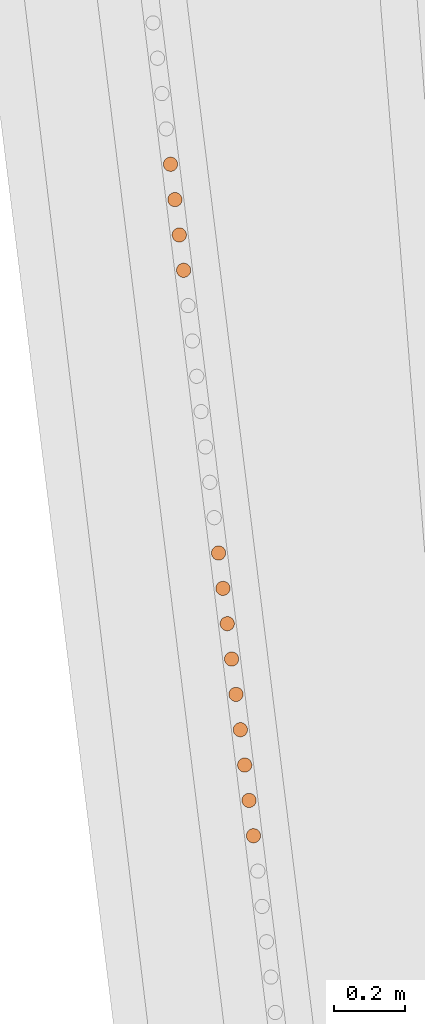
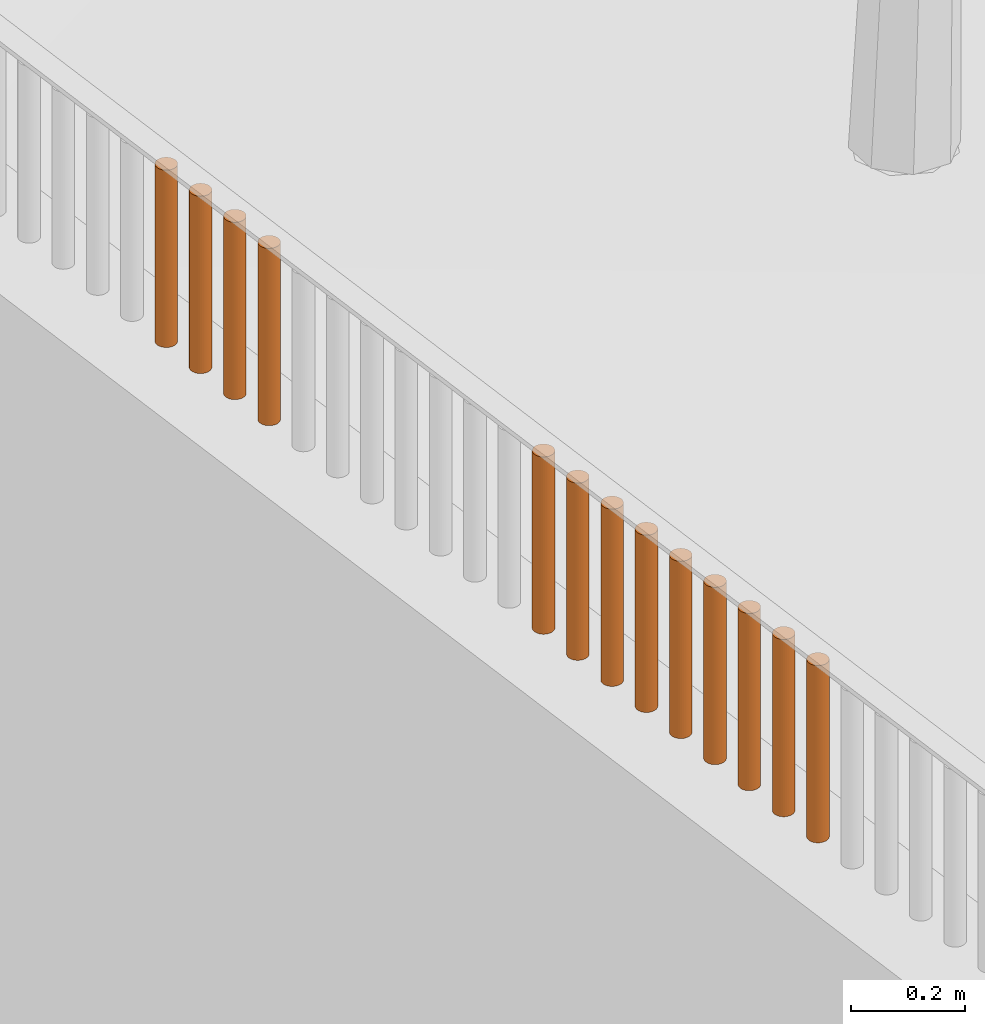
# One storey, part 121 of 1809: 13 proxies, 1 element without a shape of its own.
"""IFC2X3 building model written with IfcOpenShell, lengths in millimetres."""

from ifc_helpers import new_model, entity, si_unit, converted_unit, derived_unit, money_unit, direction, frame, origin_with_axes, place, context, subcontext, project, spatial, faceted_brep, source, transform, mapped, material, type_object, element, aggregate, save


model = new_model("IFC2X3")

# Units and contexts
model_context = context("Model", 3, precision=0.01, world=origin_with_axes(), true_north=direction((0.0, 1.0)))
body_context = subcontext(model_context, "Body", "Model", "MODEL_VIEW")
ifc_project = project(units=[si_unit("LENGTHUNIT", "METRE", prefix="MILLI"), si_unit("AREAUNIT", "SQUARE_METRE"), si_unit("VOLUMEUNIT", "CUBIC_METRE"), converted_unit("PLANEANGLEUNIT", "DEGREE", entity("IfcPlaneAngleMeasure", 0.0174532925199), si_unit("PLANEANGLEUNIT", "RADIAN"), dimensions=[0, 0, 0, 0, 0, 0, 0]), si_unit("SOLIDANGLEUNIT", "STERADIAN"), money_unit("EUR"), converted_unit("TIMEUNIT", "Year", entity("IfcTimeMeasure", 31556926.0), si_unit("TIMEUNIT", "SECOND"), dimensions=[0, 0, 1, 0, 0, 0, 0]), si_unit("MASSUNIT", "GRAM", prefix="KILO"), si_unit("THERMODYNAMICTEMPERATUREUNIT", "DEGREE_CELSIUS"), si_unit("LUMINOUSINTENSITYUNIT", "LUMEN"), si_unit("ENERGYUNIT", "JOULE", prefix="MEGA"), derived_unit("THERMALCONDUCTANCEUNIT", [(si_unit("POWERUNIT", "WATT"), 1), (si_unit("LENGTHUNIT", "METRE"), -1), (si_unit("THERMODYNAMICTEMPERATUREUNIT", "KELVIN"), -1)]), derived_unit("SPECIFICHEATCAPACITYUNIT", [(si_unit("ENERGYUNIT", "JOULE"), 1), (si_unit("MASSUNIT", "GRAM", prefix="KILO"), -1), (si_unit("THERMODYNAMICTEMPERATUREUNIT", "KELVIN"), -1)]), derived_unit("MASSDENSITYUNIT", [(si_unit("MASSUNIT", "GRAM", prefix="KILO"), 1), (si_unit("VOLUMEUNIT", "CUBIC_METRE"), -1)])], contexts=[model_context])

# Site, building, storey
site_placement = place(None, origin_with_axes())
site = spatial("IfcSite", under=ifc_project, at=site_placement, Name="Politse- ja Piirivalveameti ning Päästeameti ühishoone", CompositionType="ELEMENT")
building_placement = place(site_placement, origin_with_axes())
building = spatial("IfcBuilding", under=site, at=building_placement, Name="Politse- ja Piirivalveameti ning Päästeameti ühishoone", CompositionType="ELEMENT")
storey_placement = place(building_placement, origin_with_axes())
storey = spatial("IfcBuildingStorey", under=building, at=storey_placement, Name="Esimene korrus", CompositionType="ELEMENT", Elevation=0.0)

# Proxies
building_element_proxy_type_1 = type_object("IfcBuildingElementProxyType", Name="Railing Type", PredefinedType="NOTDEFINED")
proxy_1_placement = place(storey_placement, frame((-18956.5522504, -53688.4757966, 2100.0), z_axis=(0.0, 0.0, 1.0), x_axis=(1.0, 0.0, 0.0)))
proxy_1 = element("IfcBuildingElementProxy", 1, at=proxy_1_placement, inside=storey, type_object=building_element_proxy_type_1, Name="PIIRDEAED")
ifc_material = material(Name="ET-06_Teras - Konstruktsioon")
building_element_proxy_type_2 = type_object("IfcBuildingElementProxyType", Name="IfcBuildingElementProxy", PredefinedType="NOTDEFINED")
shared_shape_1 = source(origin_with_axes(), body_context, "Body", "Brep", [
    faceted_brep([(0.0, -20.0, 0.0), (3.47296355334, -19.6961550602, 0.0), (3.47296355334, -19.6961550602, 380.000012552), (0.0, -20.0, 380.000012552), (-3.47296355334, -19.6961550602, 0.0), (-6.84040286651, -18.7938524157, 0.0), (-10.0, -17.3205080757, 0.0), (-12.8557521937, -15.3208888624, 0.0), (-15.3208888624, -12.8557521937, 0.0), (-17.3205080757, -10.0, 0.0), (-18.7938524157, -6.84040286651, 0.0), (-19.6961550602, -3.47296355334, 0.0), (-20.0, 0.0, 0.0), (-19.6961550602, 3.47296355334, 0.0), (-18.7938524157, 6.84040286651, 0.0), (-17.3205080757, 10.0, 0.0), (-15.3208888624, 12.8557521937, 0.0), (-12.8557521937, 15.3208888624, 0.0), (-10.0, 17.3205080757, 0.0), (-6.84040286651, 18.7938524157, 0.0), (-3.47296355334, 19.6961550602, 0.0), (0.0, 20.0, 0.0), (3.47296355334, 19.6961550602, 0.0), (6.84040286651, 18.7938524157, 0.0), (10.0, 17.3205080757, 0.0), (12.8557521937, 15.3208888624, 0.0), (15.3208888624, 12.8557521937, 0.0), (17.3205080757, 10.0, 0.0), (18.7938524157, 6.84040286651, 0.0), (19.6961550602, 3.47296355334, 0.0), (20.0, 0.0, 0.0), (19.6961550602, -3.47296355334, 0.0), (18.7938524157, -6.84040286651, 0.0), (17.3205080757, -10.0, 0.0), (15.3208888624, -12.8557521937, 0.0), (12.8557521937, -15.3208888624, 0.0), (10.0, -17.3205080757, 0.0), (6.84040286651, -18.7938524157, 0.0), (6.84040286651, -18.7938524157, 380.000012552), (10.0, -17.3205080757, 380.000012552), (12.8557521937, -15.3208888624, 380.000012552), (15.3208888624, -12.8557521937, 380.000012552), (17.3205080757, -10.0, 380.000012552), (18.7938524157, -6.84040286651, 380.000012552), (19.6961550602, -3.47296355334, 380.000012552), (20.0, 0.0, 380.000012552), (19.6961550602, 3.47296355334, 380.000012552), (18.7938524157, 6.84040286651, 380.000012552), (17.3205080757, 10.0, 380.000012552), (15.3208888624, 12.8557521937, 380.000012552), (12.8557521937, 15.3208888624, 380.000012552), (10.0, 17.3205080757, 380.000012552), (6.84040286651, 18.7938524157, 380.000012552), (3.47296355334, 19.6961550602, 380.000012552), (0.0, 20.0, 380.000012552), (-3.47296355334, 19.6961550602, 380.000012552), (-6.84040286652, 18.7938524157, 380.000012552), (-10.0, 17.3205080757, 380.000012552), (-12.8557521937, 15.3208888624, 380.000012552), (-15.3208888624, 12.8557521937, 380.000012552), (-17.3205080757, 10.0, 380.000012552), (-18.7938524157, 6.84040286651, 380.000012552), (-19.6961550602, 3.47296355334, 380.000012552), (-20.0, 0.0, 380.000012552), (-19.6961550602, -3.47296355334, 380.000012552), (-18.7938524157, -6.84040286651, 380.000012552), (-17.3205080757, -10.0, 380.000012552), (-15.3208888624, -12.8557521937, 380.000012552), (-12.8557521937, -15.3208888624, 380.000012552), (-10.0, -17.3205080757, 380.000012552), (-6.84040286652, -18.7938524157, 380.000012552), (-3.47296355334, -19.6961550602, 380.000012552)], [[[0, 1, 2, 3]], [[0, 4, 5, 6, 7, 8, 9, 10, 11, 12, 13, 14, 15, 16, 17, 18, 19, 20, 21, 22, 23, 24, 25, 26, 27, 28, 29, 30, 31, 32, 33, 34, 35, 36, 37, 1]], [[1, 37, 38, 2]], [[3, 2, 38, 39, 40, 41, 42, 43, 44, 45, 46, 47, 48, 49, 50, 51, 52, 53, 54, 55, 56, 57, 58, 59, 60, 61, 62, 63, 64, 65, 66, 67, 68, 69, 70, 71]], [[4, 0, 3, 71]], [[5, 4, 71, 70]], [[6, 5, 70, 69]], [[7, 6, 69, 68]], [[8, 7, 68, 67]], [[9, 8, 67, 66]], [[10, 9, 66, 65]], [[11, 10, 65, 64]], [[12, 11, 64, 63]], [[13, 12, 63, 62]], [[14, 13, 62, 61]], [[15, 14, 61, 60]], [[16, 15, 60, 59]], [[17, 16, 59, 58]], [[18, 17, 58, 57]], [[19, 18, 57, 56]], [[20, 19, 56, 55]], [[21, 20, 55, 54]], [[22, 21, 54, 53]], [[23, 22, 53, 52]], [[24, 23, 52, 51]], [[25, 24, 51, 50]], [[26, 25, 50, 49]], [[27, 26, 49, 48]], [[28, 27, 48, 47]], [[29, 28, 47, 46]], [[30, 29, 46, 45]], [[31, 30, 45, 44]], [[32, 31, 44, 43]], [[33, 32, 43, 42]], [[34, 33, 42, 41]], [[35, 34, 41, 40]], [[36, 35, 40, 39]], [[37, 36, 39, 38]]]),
])
proxy_2_placement = place(proxy_1_placement, frame((-2873.25185801, 22443.6954787, -1.25517001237e-05), z_axis=(0.0, 0.0, 1.0), x_axis=(1.0, 0.0, 0.0)))
proxy_2 = element("IfcBuildingElementProxy", 2, at=proxy_2_placement, type_object=building_element_proxy_type_2, material=ifc_material, Name="BALUSTER - 001", context=body_context, shape_type="MappedRepresentation", body=[
    mapped(shared_shape_1, transform((0.0, 0.0, 0.0), x_axis=(0.992468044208, 0.122503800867, 0.0), y_axis=(-0.122503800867, 0.992468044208, 0.0), z_axis=(0.0, 0.0, 1.0))),
])
proxy_3_placement = place(proxy_1_placement, frame((-2897.74726783, 22642.1457415, -1.25517001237e-05), z_axis=(0.0, 0.0, 1.0), x_axis=(1.0, 0.0, 0.0)))
proxy_3 = element("IfcBuildingElementProxy", 3, at=proxy_3_placement, type_object=building_element_proxy_type_2, material=ifc_material, Name="BALUSTER - 001", context=body_context, shape_type="MappedRepresentation", body=[
    mapped(shared_shape_1, transform((0.0, 0.0, 0.0), x_axis=(0.992468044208, 0.122503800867, 0.0), y_axis=(-0.122503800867, 0.992468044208, 0.0), z_axis=(0.0, 0.0, 1.0))),
])
proxy_4_placement = place(proxy_1_placement, frame((-2934.49038257, 22939.8211358, -1.25517001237e-05), z_axis=(0.0, 0.0, 1.0), x_axis=(1.0, 0.0, 0.0)))
proxy_4 = element("IfcBuildingElementProxy", 4, at=proxy_4_placement, type_object=building_element_proxy_type_2, material=ifc_material, Name="BALUSTER - 001", context=body_context, shape_type="MappedRepresentation", body=[
    mapped(shared_shape_1, transform((0.0, 0.0, 0.0), x_axis=(0.992468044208, 0.122503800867, 0.0), y_axis=(-0.122503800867, 0.992468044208, 0.0), z_axis=(0.0, 0.0, 1.0))),
])
proxy_5_placement = place(proxy_1_placement, frame((-3069.21513662, 24031.2975815, -1.25517001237e-05), z_axis=(0.0, 0.0, 1.0), x_axis=(1.0, 0.0, 0.0)))
proxy_5 = element("IfcBuildingElementProxy", 5, at=proxy_5_placement, type_object=building_element_proxy_type_2, material=ifc_material, Name="BALUSTER - 001", context=body_context, shape_type="MappedRepresentation", body=[
    mapped(shared_shape_1, transform((0.0, 0.0, 0.0), x_axis=(0.992468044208, 0.122503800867, 0.0), y_axis=(-0.122503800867, 0.992468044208, 0.0), z_axis=(0.0, 0.0, 1.0))),
])
proxy_6_placement = place(proxy_1_placement, frame((-3093.71054644, 24229.7478444, -1.25517001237e-05), z_axis=(0.0, 0.0, 1.0), x_axis=(1.0, 0.0, 0.0)))
proxy_6 = element("IfcBuildingElementProxy", 6, at=proxy_6_placement, type_object=building_element_proxy_type_2, material=ifc_material, Name="BALUSTER - 001", context=body_context, shape_type="MappedRepresentation", body=[
    mapped(shared_shape_1, transform((0.0, 0.0, 0.0), x_axis=(0.992468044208, 0.122503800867, 0.0), y_axis=(-0.122503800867, 0.992468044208, 0.0), z_axis=(0.0, 0.0, 1.0))),
])
shared_shape_2 = source(origin_with_axes(), body_context, "Body", "Brep", [
    faceted_brep([(0.0, -20.0, 0.0), (3.47296355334, -19.6961550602, 0.0), (3.47296355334, -19.6961550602, 380.000012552), (0.0, -20.0, 380.000012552), (-3.47296355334, -19.6961550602, 0.0), (-6.84040286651, -18.7938524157, 0.0), (-10.0, -17.3205080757, 0.0), (-12.8557521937, -15.3208888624, 0.0), (-15.3208888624, -12.8557521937, 0.0), (-17.3205080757, -10.0, 0.0), (-18.7938524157, -6.84040286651, 0.0), (-19.6961550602, -3.47296355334, 0.0), (-20.0, 0.0, 0.0), (-19.6961550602, 3.47296355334, 0.0), (-18.7938524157, 6.84040286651, 0.0), (-17.3205080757, 10.0, 0.0), (-15.3208888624, 12.8557521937, 0.0), (-12.8557521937, 15.3208888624, 0.0), (-10.0, 17.3205080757, 0.0), (-6.84040286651, 18.7938524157, 0.0), (-3.47296355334, 19.6961550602, 0.0), (0.0, 20.0, 0.0), (3.47296355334, 19.6961550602, 0.0), (6.84040286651, 18.7938524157, 0.0), (10.0, 17.3205080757, 0.0), (12.8557521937, 15.3208888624, 0.0), (15.3208888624, 12.8557521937, 0.0), (17.3205080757, 10.0, 0.0), (18.7938524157, 6.84040286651, 0.0), (19.6961550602, 3.47296355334, 0.0), (20.0, 0.0, 0.0), (19.6961550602, -3.47296355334, 0.0), (18.7938524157, -6.84040286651, 0.0), (17.3205080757, -10.0, 0.0), (15.3208888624, -12.8557521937, 0.0), (12.8557521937, -15.3208888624, 0.0), (10.0, -17.3205080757, 0.0), (6.84040286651, -18.7938524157, 0.0), (6.84040286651, -18.7938524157, 380.000012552), (10.0, -17.3205080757, 380.000012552), (12.8557521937, -15.3208888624, 380.000012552), (15.3208888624, -12.8557521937, 380.000012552), (17.3205080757, -10.0, 380.000012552), (18.7938524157, -6.84040286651, 380.000012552), (19.6961550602, -3.47296355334, 380.000012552), (20.0, 0.0, 380.000012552), (19.6961550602, 3.47296355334, 380.000012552), (18.7938524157, 6.84040286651, 380.000012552), (17.3205080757, 10.0, 380.000012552), (15.3208888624, 12.8557521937, 380.000012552), (12.8557521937, 15.3208888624, 380.000012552), (10.0, 17.3205080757, 380.000012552), (6.84040286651, 18.7938524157, 380.000012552), (3.47296355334, 19.6961550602, 380.000012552), (0.0, 20.0, 380.000012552), (-3.47296355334, 19.6961550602, 380.000012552), (-6.84040286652, 18.7938524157, 380.000012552), (-10.0, 17.3205080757, 380.000012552), (-12.8557521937, 15.3208888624, 380.000012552), (-15.3208888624, 12.8557521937, 380.000012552), (-17.3205080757, 10.0, 380.000012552), (-18.7938524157, 6.84040286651, 380.000012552), (-19.6961550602, 3.47296355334, 380.000012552), (-20.0, 0.0, 380.000012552), (-19.6961550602, -3.47296355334, 380.000012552), (-18.7938524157, -6.84040286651, 380.000012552), (-17.3205080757, -10.0, 380.000012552), (-15.3208888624, -12.8557521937, 380.000012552), (-12.8557521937, -15.3208888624, 380.000012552), (-10.0, -17.3205080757, 380.000012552), (-6.84040286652, -18.7938524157, 380.000012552), (-3.47296355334, -19.6961550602, 380.000012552)], [[[0, 1, 2, 3]], [[0, 4, 5, 6, 7, 8, 9, 10, 11, 12, 13, 14, 15, 16, 17, 18, 19, 20, 21, 22, 23, 24, 25, 26, 27, 28, 29, 30, 31, 32, 33, 34, 35, 36, 37, 1]], [[1, 37, 38, 2]], [[3, 2, 38, 39, 40, 41, 42, 43, 44, 45, 46, 47, 48, 49, 50, 51, 52, 53, 54, 55, 56, 57, 58, 59, 60, 61, 62, 63, 64, 65, 66, 67, 68, 69, 70, 71]], [[4, 0, 3, 71]], [[5, 4, 71, 70]], [[6, 5, 70, 69]], [[7, 6, 69, 68]], [[8, 7, 68, 67]], [[9, 8, 67, 66]], [[10, 9, 66, 65]], [[11, 10, 65, 64]], [[12, 11, 64, 63]], [[13, 12, 63, 62]], [[14, 13, 62, 61]], [[15, 14, 61, 60]], [[16, 15, 60, 59]], [[17, 16, 59, 58]], [[18, 17, 58, 57]], [[19, 18, 57, 56]], [[20, 19, 56, 55]], [[21, 20, 55, 54]], [[22, 21, 54, 53]], [[23, 22, 53, 52]], [[24, 23, 52, 51]], [[25, 24, 51, 50]], [[26, 25, 50, 49]], [[27, 26, 49, 48]], [[28, 27, 48, 47]], [[29, 28, 47, 46]], [[30, 29, 46, 45]], [[31, 30, 45, 44]], [[32, 31, 44, 43]], [[33, 32, 43, 42]], [[34, 33, 42, 41]], [[35, 34, 41, 40]], [[36, 35, 40, 39]], [[37, 36, 39, 38]]]),
])
proxy_7_placement = place(proxy_1_placement, frame((-2909.99497275, 22741.370873, -1.25517001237e-05), z_axis=(0.0, 0.0, 1.0), x_axis=(1.0, 0.0, 0.0)))
proxy_7 = element("IfcBuildingElementProxy", 7, at=proxy_7_placement, type_object=building_element_proxy_type_2, material=ifc_material, Name="BALUSTER - 001", context=body_context, shape_type="MappedRepresentation", body=[
    mapped(shared_shape_2, transform((0.0, 0.0, 0.0), x_axis=(0.992468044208, 0.122503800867, 0.0), y_axis=(-0.122503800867, 0.992468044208, 0.0), z_axis=(0.0, 0.0, 1.0))),
])
shared_shape_3 = source(origin_with_axes(), body_context, "Body", "Brep", [
    faceted_brep([(0.0, -20.0, 0.0), (3.47296355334, -19.6961550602, 0.0), (3.47296355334, -19.6961550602, 380.000012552), (0.0, -20.0, 380.000012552), (-3.47296355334, -19.6961550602, 0.0), (-6.84040286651, -18.7938524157, 0.0), (-10.0, -17.3205080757, 0.0), (-12.8557521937, -15.3208888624, 0.0), (-15.3208888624, -12.8557521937, 0.0), (-17.3205080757, -10.0, 0.0), (-18.7938524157, -6.84040286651, 0.0), (-19.6961550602, -3.47296355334, 0.0), (-20.0, 0.0, 0.0), (-19.6961550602, 3.47296355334, 0.0), (-18.7938524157, 6.84040286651, 0.0), (-17.3205080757, 10.0, 0.0), (-15.3208888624, 12.8557521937, 0.0), (-12.8557521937, 15.3208888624, 0.0), (-10.0, 17.3205080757, 0.0), (-6.84040286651, 18.7938524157, 0.0), (-3.47296355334, 19.6961550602, 0.0), (0.0, 20.0, 0.0), (3.47296355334, 19.6961550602, 0.0), (6.84040286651, 18.7938524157, 0.0), (10.0, 17.3205080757, 0.0), (12.8557521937, 15.3208888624, 0.0), (15.3208888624, 12.8557521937, 0.0), (17.3205080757, 10.0, 0.0), (18.7938524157, 6.84040286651, 0.0), (19.6961550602, 3.47296355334, 0.0), (20.0, 0.0, 0.0), (19.6961550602, -3.47296355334, 0.0), (18.7938524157, -6.84040286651, 0.0), (17.3205080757, -10.0, 0.0), (15.3208888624, -12.8557521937, 0.0), (12.8557521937, -15.3208888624, 0.0), (10.0, -17.3205080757, 0.0), (6.84040286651, -18.7938524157, 0.0), (6.84040286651, -18.7938524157, 380.000012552), (10.0, -17.3205080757, 380.000012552), (12.8557521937, -15.3208888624, 380.000012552), (15.3208888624, -12.8557521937, 380.000012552), (17.3205080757, -10.0, 380.000012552), (18.7938524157, -6.84040286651, 380.000012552), (19.6961550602, -3.47296355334, 380.000012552), (20.0, 0.0, 380.000012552), (19.6961550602, 3.47296355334, 380.000012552), (18.7938524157, 6.84040286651, 380.000012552), (17.3205080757, 10.0, 380.000012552), (15.3208888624, 12.8557521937, 380.000012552), (12.8557521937, 15.3208888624, 380.000012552), (10.0, 17.3205080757, 380.000012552), (6.84040286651, 18.7938524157, 380.000012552), (3.47296355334, 19.6961550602, 380.000012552), (0.0, 20.0, 380.000012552), (-3.47296355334, 19.6961550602, 380.000012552), (-6.84040286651, 18.7938524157, 380.000012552), (-10.0, 17.3205080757, 380.000012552), (-12.8557521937, 15.3208888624, 380.000012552), (-15.3208888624, 12.8557521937, 380.000012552), (-17.3205080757, 10.0, 380.000012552), (-18.7938524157, 6.84040286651, 380.000012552), (-19.6961550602, 3.47296355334, 380.000012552), (-20.0, 0.0, 380.000012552), (-19.6961550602, -3.47296355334, 380.000012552), (-18.7938524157, -6.84040286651, 380.000012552), (-17.3205080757, -10.0, 380.000012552), (-15.3208888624, -12.8557521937, 380.000012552), (-12.8557521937, -15.3208888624, 380.000012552), (-10.0, -17.3205080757, 380.000012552), (-6.84040286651, -18.7938524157, 380.000012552), (-3.47296355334, -19.6961550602, 380.000012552)], [[[0, 1, 2, 3]], [[0, 4, 5, 6, 7, 8, 9, 10, 11, 12, 13, 14, 15, 16, 17, 18, 19, 20, 21, 22, 23, 24, 25, 26, 27, 28, 29, 30, 31, 32, 33, 34, 35, 36, 37, 1]], [[1, 37, 38, 2]], [[3, 2, 38, 39, 40, 41, 42, 43, 44, 45, 46, 47, 48, 49, 50, 51, 52, 53, 54, 55, 56, 57, 58, 59, 60, 61, 62, 63, 64, 65, 66, 67, 68, 69, 70, 71]], [[4, 0, 3, 71]], [[5, 4, 71, 70]], [[6, 5, 70, 69]], [[7, 6, 69, 68]], [[8, 7, 68, 67]], [[9, 8, 67, 66]], [[10, 9, 66, 65]], [[11, 10, 65, 64]], [[12, 11, 64, 63]], [[13, 12, 63, 62]], [[14, 13, 62, 61]], [[15, 14, 61, 60]], [[16, 15, 60, 59]], [[17, 16, 59, 58]], [[18, 17, 58, 57]], [[19, 18, 57, 56]], [[20, 19, 56, 55]], [[21, 20, 55, 54]], [[22, 21, 54, 53]], [[23, 22, 53, 52]], [[24, 23, 52, 51]], [[25, 24, 51, 50]], [[26, 25, 50, 49]], [[27, 26, 49, 48]], [[28, 27, 48, 47]], [[29, 28, 47, 46]], [[30, 29, 46, 45]], [[31, 30, 45, 44]], [[32, 31, 44, 43]], [[33, 32, 43, 42]], [[34, 33, 42, 41]], [[35, 34, 41, 40]], [[36, 35, 40, 39]], [[37, 36, 39, 38]]]),
])
proxy_8_placement = place(proxy_1_placement, frame((-2958.9857924, 23138.2713987, -1.25517001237e-05), z_axis=(0.0, 0.0, 1.0), x_axis=(1.0, 0.0, 0.0)))
proxy_8 = element("IfcBuildingElementProxy", 8, at=proxy_8_placement, type_object=building_element_proxy_type_2, material=ifc_material, Name="BALUSTER - 001", context=body_context, shape_type="MappedRepresentation", body=[
    mapped(shared_shape_3, transform((0.0, 0.0, 0.0), x_axis=(0.992468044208, 0.122503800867, 0.0), y_axis=(-0.122503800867, 0.992468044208, 0.0), z_axis=(0.0, 0.0, 1.0))),
])
shared_shape_4 = source(origin_with_axes(), body_context, "Body", "Brep", [
    faceted_brep([(0.0, -20.0, 0.0), (3.47296355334, -19.6961550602, 0.0), (3.47296355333, -19.6961550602, 380.000012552), (0.0, -20.0, 380.000012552), (-3.47296355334, -19.6961550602, 0.0), (-6.84040286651, -18.7938524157, 0.0), (-10.0, -17.3205080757, 0.0), (-12.8557521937, -15.3208888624, 0.0), (-15.3208888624, -12.8557521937, 0.0), (-17.3205080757, -10.0, 0.0), (-18.7938524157, -6.84040286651, 0.0), (-19.6961550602, -3.47296355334, 0.0), (-20.0, 0.0, 0.0), (-19.6961550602, 3.47296355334, 0.0), (-18.7938524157, 6.84040286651, 0.0), (-17.3205080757, 10.0, 0.0), (-15.3208888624, 12.8557521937, 0.0), (-12.8557521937, 15.3208888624, 0.0), (-10.0, 17.3205080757, 0.0), (-6.84040286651, 18.7938524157, 0.0), (-3.47296355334, 19.6961550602, 0.0), (0.0, 20.0, 0.0), (3.47296355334, 19.6961550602, 0.0), (6.84040286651, 18.7938524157, 0.0), (10.0, 17.3205080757, 0.0), (12.8557521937, 15.3208888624, 0.0), (15.3208888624, 12.8557521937, 0.0), (17.3205080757, 10.0, 0.0), (18.7938524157, 6.84040286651, 0.0), (19.6961550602, 3.47296355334, 0.0), (20.0, 0.0, 0.0), (19.6961550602, -3.47296355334, 0.0), (18.7938524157, -6.84040286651, 0.0), (17.3205080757, -10.0, 0.0), (15.3208888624, -12.8557521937, 0.0), (12.8557521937, -15.3208888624, 0.0), (10.0, -17.3205080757, 0.0), (6.84040286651, -18.7938524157, 0.0), (6.84040286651, -18.7938524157, 380.000012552), (9.99999999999, -17.3205080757, 380.000012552), (12.8557521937, -15.3208888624, 380.000012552), (15.3208888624, -12.8557521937, 380.000012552), (17.3205080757, -10.0, 380.000012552), (18.7938524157, -6.84040286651, 380.000012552), (19.6961550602, -3.47296355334, 380.000012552), (20.0, 0.0, 380.000012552), (19.6961550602, 3.47296355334, 380.000012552), (18.7938524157, 6.84040286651, 380.000012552), (17.3205080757, 10.0, 380.000012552), (15.3208888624, 12.8557521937, 380.000012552), (12.8557521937, 15.3208888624, 380.000012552), (9.99999999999, 17.3205080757, 380.000012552), (6.84040286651, 18.7938524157, 380.000012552), (3.47296355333, 19.6961550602, 380.000012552), (0.0, 20.0, 380.000012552), (-3.47296355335, 19.6961550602, 380.000012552), (-6.84040286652, 18.7938524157, 380.000012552), (-10.0, 17.3205080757, 380.000012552), (-12.8557521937, 15.3208888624, 380.000012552), (-15.3208888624, 12.8557521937, 380.000012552), (-17.3205080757, 10.0, 380.000012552), (-18.7938524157, 6.84040286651, 380.000012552), (-19.6961550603, 3.47296355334, 380.000012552), (-20.0, 0.0, 380.000012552), (-19.6961550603, -3.47296355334, 380.000012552), (-18.7938524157, -6.84040286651, 380.000012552), (-17.3205080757, -10.0, 380.000012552), (-15.3208888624, -12.8557521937, 380.000012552), (-12.8557521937, -15.3208888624, 380.000012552), (-10.0, -17.3205080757, 380.000012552), (-6.84040286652, -18.7938524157, 380.000012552), (-3.47296355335, -19.6961550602, 380.000012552)], [[[0, 1, 2, 3]], [[0, 4, 5, 6, 7, 8, 9, 10, 11, 12, 13, 14, 15, 16, 17, 18, 19, 20, 21, 22, 23, 24, 25, 26, 27, 28, 29, 30, 31, 32, 33, 34, 35, 36, 37, 1]], [[1, 37, 38, 2]], [[3, 2, 38, 39, 40, 41, 42, 43, 44, 45, 46, 47, 48, 49, 50, 51, 52, 53, 54, 55, 56, 57, 58, 59, 60, 61, 62, 63, 64, 65, 66, 67, 68, 69, 70, 71]], [[4, 0, 3, 71]], [[5, 4, 71, 70]], [[6, 5, 70, 69]], [[7, 6, 69, 68]], [[8, 7, 68, 67]], [[9, 8, 67, 66]], [[10, 9, 66, 65]], [[11, 10, 65, 64]], [[12, 11, 64, 63]], [[13, 12, 63, 62]], [[14, 13, 62, 61]], [[15, 14, 61, 60]], [[16, 15, 60, 59]], [[17, 16, 59, 58]], [[18, 17, 58, 57]], [[19, 18, 57, 56]], [[20, 19, 56, 55]], [[21, 20, 55, 54]], [[22, 21, 54, 53]], [[23, 22, 53, 52]], [[24, 23, 52, 51]], [[25, 24, 51, 50]], [[26, 25, 50, 49]], [[27, 26, 49, 48]], [[28, 27, 48, 47]], [[29, 28, 47, 46]], [[30, 29, 46, 45]], [[31, 30, 45, 44]], [[32, 31, 44, 43]], [[33, 32, 43, 42]], [[34, 33, 42, 41]], [[35, 34, 41, 40]], [[36, 35, 40, 39]], [[37, 36, 39, 38]]]),
])
proxy_9_placement = place(proxy_1_placement, frame((-2861.00415309, 22344.4703473, -1.25517001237e-05), z_axis=(0.0, 0.0, 1.0), x_axis=(1.0, 0.0, 0.0)))
proxy_9 = element("IfcBuildingElementProxy", 9, at=proxy_9_placement, type_object=building_element_proxy_type_2, material=ifc_material, Name="BALUSTER - 001", context=body_context, shape_type="MappedRepresentation", body=[
    mapped(shared_shape_4, transform((0.0, 0.0, 0.0), x_axis=(0.992468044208, 0.122503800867, 0.0), y_axis=(-0.122503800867, 0.992468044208, 0.0), z_axis=(0.0, 0.0, 1.0))),
])
proxy_10_placement = place(proxy_1_placement, frame((-2922.24267766, 22840.5960044, -1.25517001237e-05), z_axis=(0.0, 0.0, 1.0), x_axis=(1.0, 0.0, 0.0)))
proxy_10 = element("IfcBuildingElementProxy", 10, at=proxy_10_placement, type_object=building_element_proxy_type_2, material=ifc_material, Name="BALUSTER - 001", context=body_context, shape_type="MappedRepresentation", body=[
    mapped(shared_shape_4, transform((0.0, 0.0, 0.0), x_axis=(0.992468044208, 0.122503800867, 0.0), y_axis=(-0.122503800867, 0.992468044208, 0.0), z_axis=(0.0, 0.0, 1.0))),
])
proxy_11_placement = place(proxy_1_placement, frame((-3056.9674317, 23932.0724501, -1.25517001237e-05), z_axis=(0.0, 0.0, 1.0), x_axis=(1.0, 0.0, 0.0)))
proxy_11 = element("IfcBuildingElementProxy", 11, at=proxy_11_placement, type_object=building_element_proxy_type_2, material=ifc_material, Name="BALUSTER - 001", context=body_context, shape_type="MappedRepresentation", body=[
    mapped(shared_shape_4, transform((0.0, 0.0, 0.0), x_axis=(0.992468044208, 0.122503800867, 0.0), y_axis=(-0.122503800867, 0.992468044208, 0.0), z_axis=(0.0, 0.0, 1.0))),
])
shared_shape_5 = source(origin_with_axes(), body_context, "Body", "Brep", [
    faceted_brep([(0.0, -20.0, 0.0), (3.47296355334, -19.6961550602, 0.0), (3.47296355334, -19.6961550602, 380.000012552), (0.0, -20.0, 380.000012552), (-3.47296355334, -19.6961550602, 0.0), (-6.84040286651, -18.7938524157, 0.0), (-10.0, -17.3205080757, 0.0), (-12.8557521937, -15.3208888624, 0.0), (-15.3208888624, -12.8557521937, 0.0), (-17.3205080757, -10.0, 0.0), (-18.7938524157, -6.84040286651, 0.0), (-19.6961550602, -3.47296355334, 0.0), (-20.0, 0.0, 0.0), (-19.6961550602, 3.47296355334, 0.0), (-18.7938524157, 6.84040286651, 0.0), (-17.3205080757, 10.0, 0.0), (-15.3208888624, 12.8557521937, 0.0), (-12.8557521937, 15.3208888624, 0.0), (-10.0, 17.3205080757, 0.0), (-6.84040286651, 18.7938524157, 0.0), (-3.47296355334, 19.6961550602, 0.0), (0.0, 20.0, 0.0), (3.47296355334, 19.6961550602, 0.0), (6.84040286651, 18.7938524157, 0.0), (10.0, 17.3205080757, 0.0), (12.8557521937, 15.3208888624, 0.0), (15.3208888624, 12.8557521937, 0.0), (17.3205080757, 10.0, 0.0), (18.7938524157, 6.84040286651, 0.0), (19.6961550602, 3.47296355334, 0.0), (20.0, 0.0, 0.0), (19.6961550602, -3.47296355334, 0.0), (18.7938524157, -6.84040286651, 0.0), (17.3205080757, -10.0, 0.0), (15.3208888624, -12.8557521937, 0.0), (12.8557521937, -15.3208888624, 0.0), (10.0, -17.3205080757, 0.0), (6.84040286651, -18.7938524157, 0.0), (6.84040286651, -18.7938524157, 380.000012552), (10.0, -17.3205080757, 380.000012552), (12.8557521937, -15.3208888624, 380.000012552), (15.3208888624, -12.8557521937, 380.000012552), (17.3205080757, -10.0, 380.000012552), (18.7938524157, -6.84040286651, 380.000012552), (19.6961550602, -3.47296355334, 380.000012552), (20.0, 0.0, 380.000012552), (19.6961550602, 3.47296355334, 380.000012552), (18.7938524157, 6.84040286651, 380.000012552), (17.3205080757, 10.0, 380.000012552), (15.3208888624, 12.8557521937, 380.000012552), (12.8557521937, 15.3208888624, 380.000012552), (10.0, 17.3205080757, 380.000012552), (6.84040286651, 18.7938524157, 380.000012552), (3.47296355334, 19.6961550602, 380.000012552), (0.0, 20.0, 380.000012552), (-3.47296355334, 19.6961550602, 380.000012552), (-6.84040286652, 18.7938524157, 380.000012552), (-10.0, 17.3205080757, 380.000012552), (-12.8557521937, 15.3208888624, 380.000012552), (-15.3208888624, 12.8557521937, 380.000012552), (-17.3205080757, 10.0, 380.000012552), (-18.7938524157, 6.84040286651, 380.000012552), (-19.6961550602, 3.47296355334, 380.000012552), (-20.0, 0.0, 380.000012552), (-19.6961550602, -3.47296355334, 380.000012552), (-18.7938524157, -6.84040286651, 380.000012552), (-17.3205080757, -10.0, 380.000012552), (-15.3208888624, -12.8557521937, 380.000012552), (-12.8557521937, -15.3208888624, 380.000012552), (-10.0, -17.3205080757, 380.000012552), (-6.84040286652, -18.7938524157, 380.000012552), (-3.47296355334, -19.6961550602, 380.000012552)], [[[0, 1, 2, 3]], [[0, 4, 5, 6, 7, 8, 9, 10, 11, 12, 13, 14, 15, 16, 17, 18, 19, 20, 21, 22, 23, 24, 25, 26, 27, 28, 29, 30, 31, 32, 33, 34, 35, 36, 37, 1]], [[1, 37, 38, 2]], [[3, 2, 38, 39, 40, 41, 42, 43, 44, 45, 46, 47, 48, 49, 50, 51, 52, 53, 54, 55, 56, 57, 58, 59, 60, 61, 62, 63, 64, 65, 66, 67, 68, 69, 70, 71]], [[4, 0, 3, 71]], [[5, 4, 71, 70]], [[6, 5, 70, 69]], [[7, 6, 69, 68]], [[8, 7, 68, 67]], [[9, 8, 67, 66]], [[10, 9, 66, 65]], [[11, 10, 65, 64]], [[12, 11, 64, 63]], [[13, 12, 63, 62]], [[14, 13, 62, 61]], [[15, 14, 61, 60]], [[16, 15, 60, 59]], [[17, 16, 59, 58]], [[18, 17, 58, 57]], [[19, 18, 57, 56]], [[20, 19, 56, 55]], [[21, 20, 55, 54]], [[22, 21, 54, 53]], [[23, 22, 53, 52]], [[24, 23, 52, 51]], [[25, 24, 51, 50]], [[26, 25, 50, 49]], [[27, 26, 49, 48]], [[28, 27, 48, 47]], [[29, 28, 47, 46]], [[30, 29, 46, 45]], [[31, 30, 45, 44]], [[32, 31, 44, 43]], [[33, 32, 43, 42]], [[34, 33, 42, 41]], [[35, 34, 41, 40]], [[36, 35, 40, 39]], [[37, 36, 39, 38]]]),
])
proxy_12_placement = place(proxy_1_placement, frame((-2885.49956292, 22542.9206101, -1.25517001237e-05), z_axis=(0.0, 0.0, 1.0), x_axis=(1.0, 0.0, 0.0)))
proxy_12 = element("IfcBuildingElementProxy", 12, at=proxy_12_placement, type_object=building_element_proxy_type_2, material=ifc_material, Name="BALUSTER - 001", context=body_context, shape_type="MappedRepresentation", body=[
    mapped(shared_shape_5, transform((0.0, 0.0, 0.0), x_axis=(0.992468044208, 0.122503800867, 0.0), y_axis=(-0.122503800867, 0.992468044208, 0.0), z_axis=(0.0, 0.0, 1.0))),
])
proxy_13_placement = place(proxy_1_placement, frame((-2946.73808749, 23039.0462672, -1.25517001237e-05), z_axis=(0.0, 0.0, 1.0), x_axis=(1.0, 0.0, 0.0)))
proxy_13 = element("IfcBuildingElementProxy", 13, at=proxy_13_placement, type_object=building_element_proxy_type_2, material=ifc_material, Name="BALUSTER - 001", context=body_context, shape_type="MappedRepresentation", body=[
    mapped(shared_shape_5, transform((0.0, 0.0, 0.0), x_axis=(0.992468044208, 0.122503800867, 0.0), y_axis=(-0.122503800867, 0.992468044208, 0.0), z_axis=(0.0, 0.0, 1.0))),
])
proxy_14_placement = place(proxy_1_placement, frame((-3081.46284153, 24130.5227129, -1.25517001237e-05), z_axis=(0.0, 0.0, 1.0), x_axis=(1.0, 0.0, 0.0)))
proxy_14 = element("IfcBuildingElementProxy", 14, at=proxy_14_placement, type_object=building_element_proxy_type_2, material=ifc_material, Name="BALUSTER - 001", context=body_context, shape_type="MappedRepresentation", body=[
    mapped(shared_shape_5, transform((0.0, 0.0, 0.0), x_axis=(0.992468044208, 0.122503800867, 0.0), y_axis=(-0.122503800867, 0.992468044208, 0.0), z_axis=(0.0, 0.0, 1.0))),
])
aggregate(proxy_1, [proxy_9, proxy_2, proxy_12, proxy_3, proxy_7, proxy_10, proxy_4, proxy_13, proxy_8, proxy_11, proxy_5, proxy_14, proxy_6])

save(model, "model.ifc")
